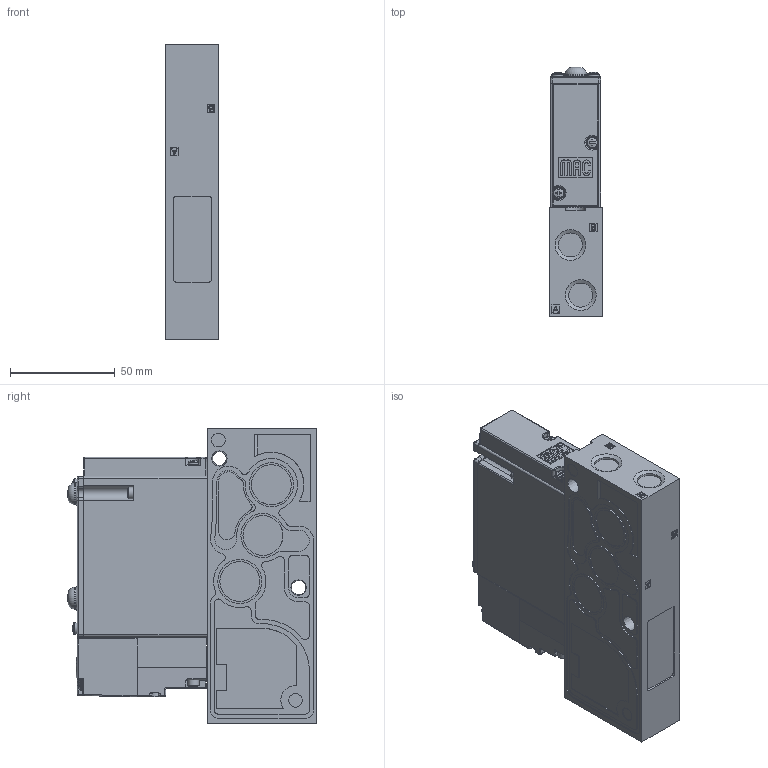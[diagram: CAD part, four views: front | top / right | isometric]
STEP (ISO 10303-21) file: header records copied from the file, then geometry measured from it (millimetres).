
FILE_DESCRIPTION (( 'STEP AP214' ), '1' );
FILE_NAME ('92A-AAA-B1J-DM-DXXP-YZZ.STEP', '2019-07-05T14:54:52', ( 'user' ), ( '' ), 'SwSTEP 2.0', 'SolidWorks 2014', '' );
FILE_SCHEMA (( 'AUTOMOTIVE_DESIGN' ));
Length unit declared in the file: millimetre
Products named in the file (6): 92-OVERRIDE-1; 92-OPERATOR-DXXP-YDM; 92-PILOT-DM; 92-BODY-AAA; 92-BASE-B1J; 92A-AAA-B1J-DM-DXXP-YZZ
Assembly tree (5 placements, depth 2):
  92A-AAA-B1J-DM-DXXP-YZZ
    92-BASE-B1J
    92-BODY-AAA
    92-PILOT-DM
    92-OPERATOR-DXXP-YDM
    92-OVERRIDE-1
Bounding box: 25.5 x 118.6 x 141 mm (x, y, z)
Volume: 328480.3 mm3; surface area: 70965.3 mm2
Topology: 24 solids, 28 shells, 2074 faces, 5312 edges, 3448 vertices
Faces by surface type: plane 1098, cylinder 620, cone 167, bspline 107, torus 44, sphere 38
Full cylindrical faces by diameter (mm): 0.01 x2, 0.72 x1, 0.74 x1, 0.85 x1, 0.95 x2, 1 x1, 2 x2, 2.2 x2, 2.4 x2, 2.5 x2, 2.6 x2, 2.7 x1, 2.79 x4, 3 x10, 3.15 x2, 3.25 x2, 3.3 x4, 3.35 x2, 3.6 x1, 4.775 x2, 5 x1, 5.1 x1, 5.5 x8, 5.6 x1, 6.22 x1, 6.8 x2, 6.92 x1, 7 x1, 7.135 x1, 9.5 x2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
Entity records: 89215 total; most frequent: CARTESIAN_POINT 16308, ORIENTED_EDGE 10264, DIRECTION 10155, EDGE_CURVE 5132, AXIS2_PLACEMENT_3D 3527, VERTEX_POINT 3429, LINE 3101, VECTOR 3101
